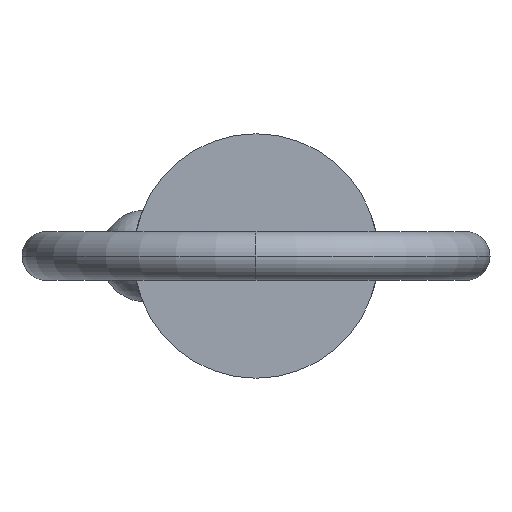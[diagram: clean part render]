
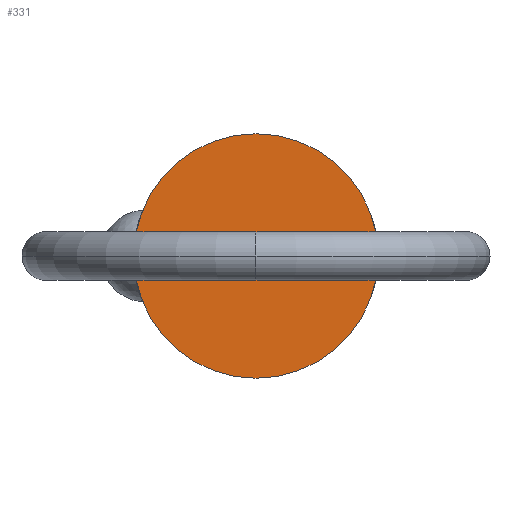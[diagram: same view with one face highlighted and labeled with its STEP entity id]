
A CAD part, left-side view. The second image highlights one B-rep face of the part: STEP entity #331.
In plain terms, the highlighted planar face has unit normal (-1, 0, 0).
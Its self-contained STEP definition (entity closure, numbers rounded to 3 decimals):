
#33 = AXIS2_PLACEMENT_3D ( 'NONE', #606, #471, #182 ) ;
#64 = DIRECTION ( 'NONE',  ( 0., 0., -1. ) ) ;
#180 = EDGE_CURVE ( 'NONE', #523, #603, #301, .T. ) ;
#182 = DIRECTION ( 'NONE',  ( 0., 0., 1. ) ) ;
#266 = DIRECTION ( 'NONE',  ( 0., 0., -1. ) ) ;
#273 = CIRCLE ( 'NONE', #410, 11.115 ) ;
#301 = CIRCLE ( 'NONE', #655, 11.115 ) ;
#331 = ADVANCED_FACE ( 'NONE', ( #856 ), #385, .T. ) ;
#341 = DIRECTION ( 'NONE',  ( 1., 0., 0. ) ) ;
#385 = PLANE ( 'NONE',  #33 ) ;
#402 = ORIENTED_EDGE ( 'NONE', *, *, #505, .F. ) ;
#410 = AXIS2_PLACEMENT_3D ( 'NONE', #551, #341, #64 ) ;
#471 = DIRECTION ( 'NONE',  ( -1., 0., 0. ) ) ;
#505 = EDGE_CURVE ( 'NONE', #603, #523, #273, .T. ) ;
#523 = VERTEX_POINT ( 'NONE', #899 ) ;
#551 = CARTESIAN_POINT ( 'NONE',  ( 0., 0., 0. ) ) ;
#596 = EDGE_LOOP ( 'NONE', ( #809, #402 ) ) ;
#603 = VERTEX_POINT ( 'NONE', #784 ) ;
#606 = CARTESIAN_POINT ( 'NONE',  ( 0., 0., 0. ) ) ;
#655 = AXIS2_PLACEMENT_3D ( 'NONE', #900, #772, #266 ) ;
#772 = DIRECTION ( 'NONE',  ( 1., 0., 0. ) ) ;
#784 = CARTESIAN_POINT ( 'NONE',  ( 0., 0., 11.115 ) ) ;
#809 = ORIENTED_EDGE ( 'NONE', *, *, #180, .F. ) ;
#856 = FACE_OUTER_BOUND ( 'NONE', #596, .T. ) ;
#899 = CARTESIAN_POINT ( 'NONE',  ( 0., 0., -11.115 ) ) ;
#900 = CARTESIAN_POINT ( 'NONE',  ( 0., 0., 0. ) ) ;
